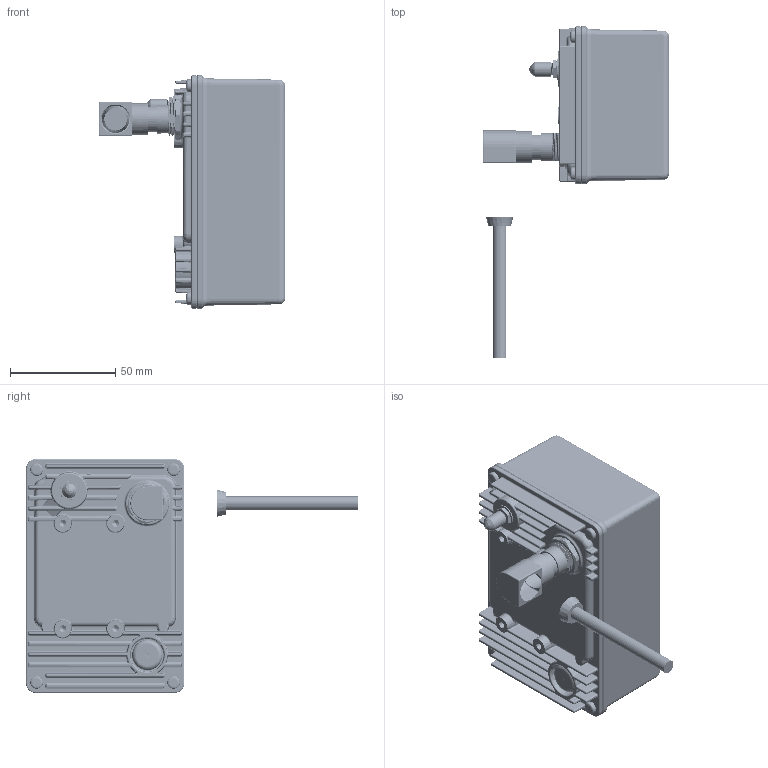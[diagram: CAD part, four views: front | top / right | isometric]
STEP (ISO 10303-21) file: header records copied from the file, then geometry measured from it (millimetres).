
FILE_DESCRIPTION(/* description */ (''),/* implementation_level */ '2;1');
FILE_NAME(/* name */ '10000443_Standard_B.stp',/* time_stamp */ '2023-03-09T09:44:00+01:00',/* author */ ('Menz'),/* organization */ (''),/* preprocessor_version */ 'ST-DEVELOPER v19.2',/* originating_system */ 'Autodesk Inventor 2023',/* authorisation */ '');
FILE_SCHEMA (('AUTOMOTIVE_DESIGN { 1 0 10303 214 3 1 1 }'));
Products named in the file (1): 10000443_simplified
Bounding box: 88.5 x 157.5 x 111 mm (x, y, z)
Volume: 380211.3 mm3; surface area: 76973.6 mm2
Topology: 12 solids, 12 shells, 2092 faces, 5384 edges, 3234 vertices
Faces by surface type: cylinder 761, bspline 492, plane 345, torus 212, cone 179, sphere 103
Full cylindrical faces by diameter (mm): 0.9 x1, 3 x28, 3.242 x4, 4.7 x1, 5.3 x1, 6 x4, 6.5 x3, 6.9 x1, 7.3 x1, 8.25 x1, 8.5 x1, 9.8 x1, 10.2 x1, 10.5 x1, 10.517 x5, 10.8 x1, 10.9 x1, 12 x1, 12.113 x1, 13 x1, 13.5 x1, 14.4 x1, 15 x1, 20 x1
Entity records: 123539 total; most frequent: CARTESIAN_POINT 73642, ORIENTED_EDGE 10540, DIRECTION 9406, EDGE_CURVE 5270, AXIS2_PLACEMENT_3D 3932, VERTEX_POINT 3234, CIRCLE 2240, EDGE_LOOP 2166
